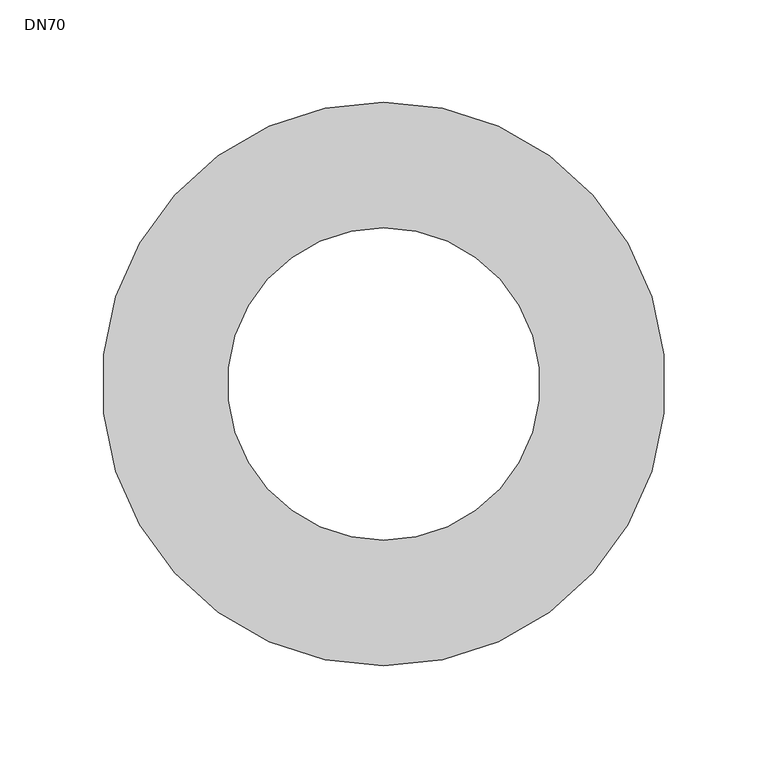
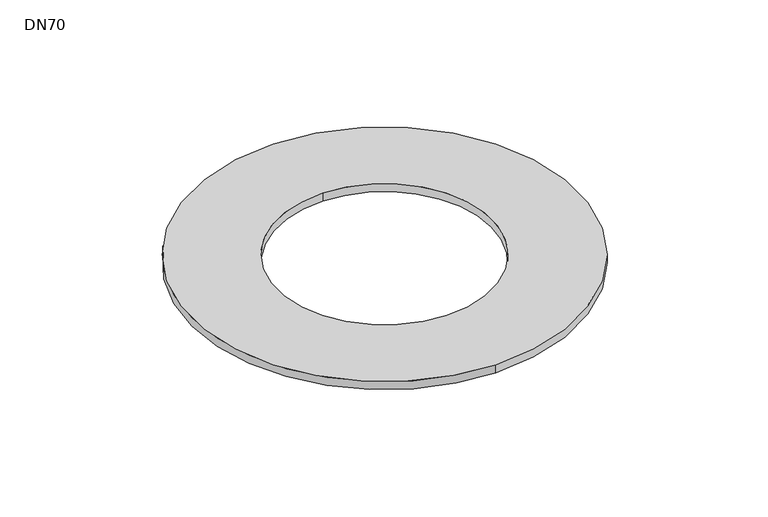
"""IFC4 building model written with IfcOpenShell, lengths in millimetres: sanitary terminal geometry, PF_GEN_configurable gully single body Passavant Spin_ACO : DN70."""

from ifc_helpers import new_model, si_unit, point, frame, origin, origin_2d, place, context, project, spatial, circle_curve, trimmed, segment, composite_curve, outline, extrude, source, transform, mapped, element, save


def dn70_df0a8fda(model_context):
    return source(origin(), model_context, "Body", "SweptSolid", [
        extrude(outline(composite_curve([segment(trimmed(circle_curve(origin_2d(), 138.0), [point((0.0, -138.0))], [point((0.0, 138.0))], False, "CARTESIAN"), True, "CONTINUOUS"), segment(trimmed(circle_curve(origin_2d(), 138.0), [point((0.0, 138.0))], [point((0.0, -138.0))], False, "CARTESIAN"), True, "CONTINUOUS")], self_intersect=False), holes=[composite_curve([segment(trimmed(circle_curve(origin_2d(), 76.5), [point((0.0, -76.5))], [point((0.0, 76.5))], True, "CARTESIAN"), True, "CONTINUOUS"), segment(trimmed(circle_curve(origin_2d(), 76.5), [point((0.0, 76.5))], [point((0.0, -76.5))], True, "CARTESIAN"), True, "CONTINUOUS")], self_intersect=False)]), frame((0.0, 0.0, 5.0), z_axis=(0.0, 0.0, 1.0), x_axis=(1.0, 0.0, 0.0)), (0.0, 0.0, 1.0), 6.0),
    ])


if __name__ == "__main__":
    model = new_model("IFC4")
    model_context = context("Model", 3, world=origin())
    ifc_project = project(units=[si_unit("LENGTHUNIT", "METRE", prefix="MILLI")], contexts=[model_context])
    site = spatial("IfcSite", under=ifc_project)
    building = spatial("IfcBuilding", under=site)
    placement = place(None, origin())
    dn70_shape = dn70_df0a8fda(model_context)
    element("IfcSanitaryTerminal", 1, ObjectType="PF_GEN_configurable gully single body Passavant Spin_ACO : DN70", at=placement, inside=building, context=model_context, shape_type="MappedRepresentation", body=[
        mapped(dn70_shape, transform((0.0, 0.0, 0.0), x_axis=(1.0, 0.0, 0.0), y_axis=(0.0, 1.0, 0.0), z_axis=(0.0, 0.0, 1.0))),
    ])
    save(model, "model.ifc")
